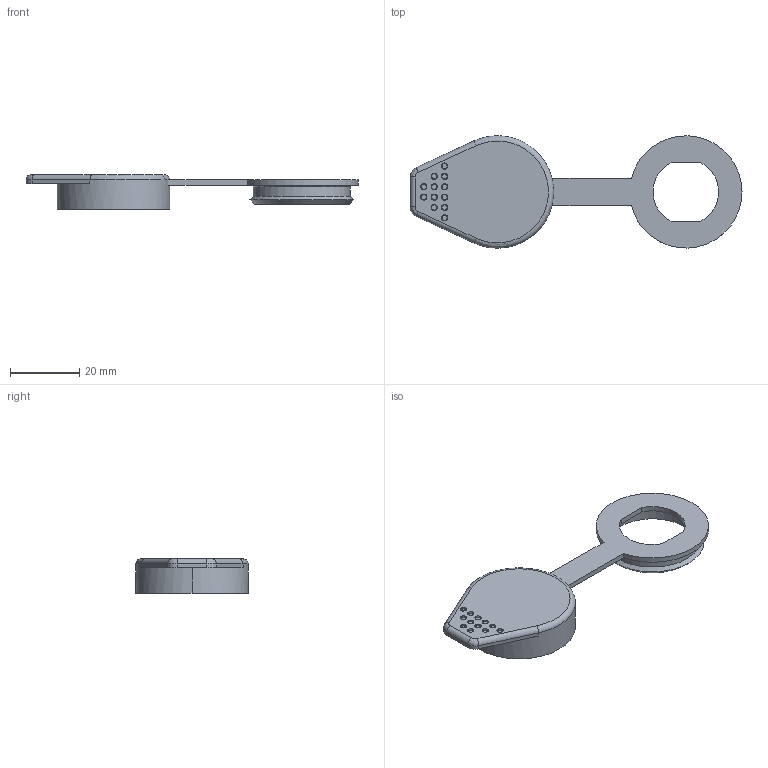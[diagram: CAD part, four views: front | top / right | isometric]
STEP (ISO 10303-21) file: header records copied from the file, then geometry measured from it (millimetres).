
FILE_DESCRIPTION((''),'2;1');
FILE_NAME('FANGSHUIGAI','2016-07-07T',('Administrator'),(''),'PRO/ENGINEER BY PARAMETRIC TECHNOLOGY CORPORATION, 2009060','PRO/ENGINEER BY PARAMETRIC TECHNOLOGY CORPORATION, 2009060','');
FILE_SCHEMA(('CONFIG_CONTROL_DESIGN'));
Length unit declared in the file: millimetre
Products named in the file (1): FANGSHUIGAI
Bounding box: 96.05 x 32.5 x 10 mm (x, y, z)
Volume: 4093.9 mm3; surface area: 6584.6 mm2
Topology: 1 solids, 1 shells, 80 faces, 172 edges, 109 vertices
Faces by surface type: plane 27, bspline 26, cylinder 16, cone 10, torus 1
Entity records: 2959 total; most frequent: CARTESIAN_POINT 1351, ORIENTED_EDGE 344, DIRECTION 259, EDGE_CURVE 172, VERTEX_POINT 109, AXIS2_PLACEMENT_3D 105, EDGE_LOOP 97, FACE_OUTER_BOUND 80
